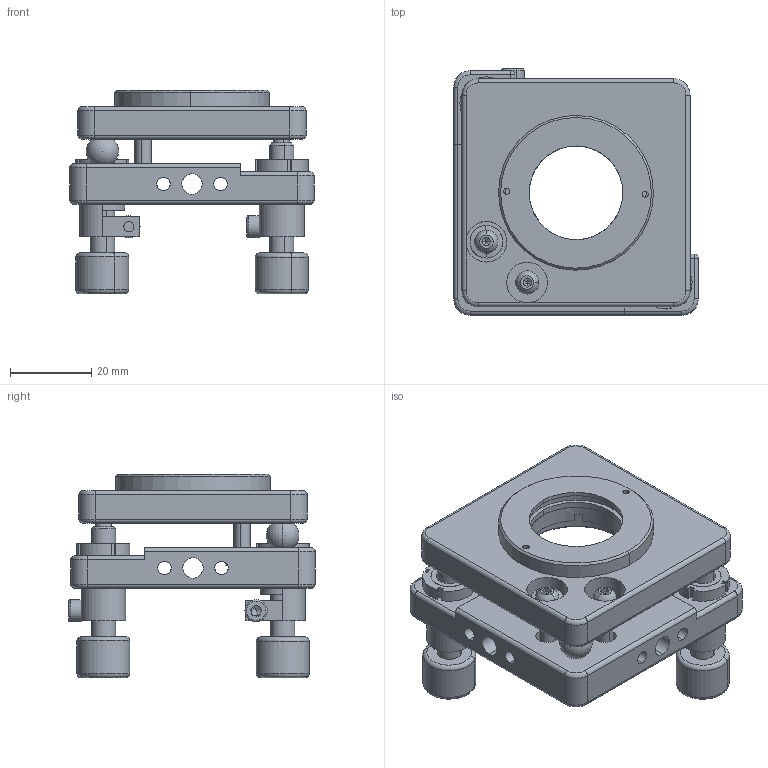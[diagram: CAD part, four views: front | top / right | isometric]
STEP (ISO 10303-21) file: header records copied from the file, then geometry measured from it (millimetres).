
FILE_DESCRIPTION (( 'STEP AP203' ), '1' );
FILE_NAME ('7MM0525謗峎覃淕噩殤.STEP', '2019-10-17T08:55:36', ( '' ), ( '' ), 'SwSTEP 2.0', 'SolidWorks 2014', '' );
FILE_SCHEMA (( 'CONFIG_CONTROL_DESIGN' ));
Length unit declared in the file: millimetre
Products named in the file (1): 7MM0525謗峎覃淕噩殤
Bounding box: 60 x 60.5 x 49.94 mm (x, y, z)
Surface area: 21574.3 mm2 (no closed solid volume)
Topology: 0 solids, 37 shells, 372 faces, 981 edges, 625 vertices
Faces by surface type: plane 167, cylinder 139, torus 26, cone 22, sphere 18
Entity records: 11791 total; most frequent: CARTESIAN_POINT 2429, DIRECTION 2108, ORIENTED_EDGE 1700, EDGE_CURVE 956, AXIS2_PLACEMENT_3D 803, VERTEX_POINT 616, LINE 502, VECTOR 502
